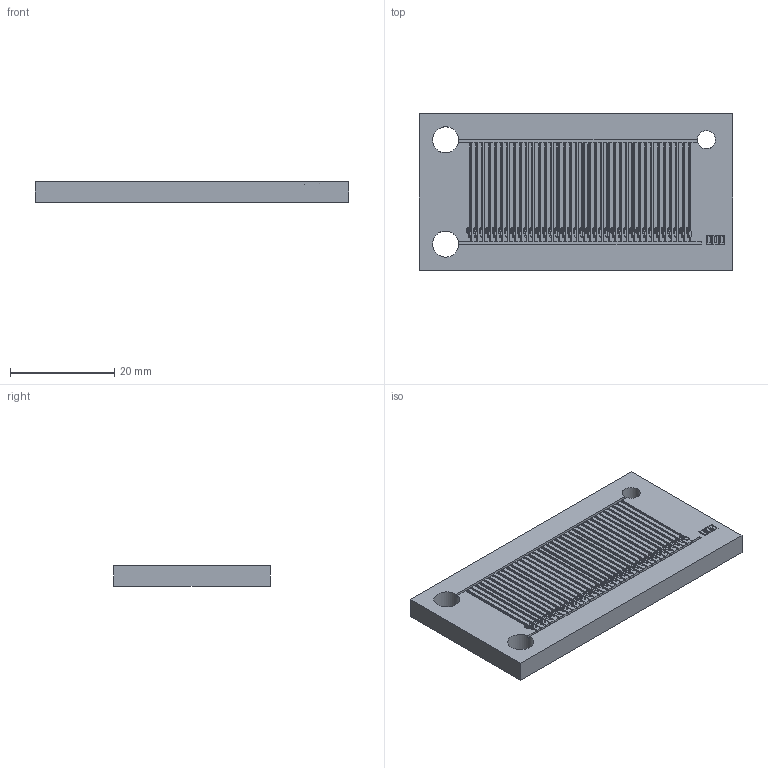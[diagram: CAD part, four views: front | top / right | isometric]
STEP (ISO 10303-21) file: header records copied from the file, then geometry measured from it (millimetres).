
FILE_DESCRIPTION(/* description */ (''),/* implementation_level */ '2;1');
FILE_NAME(/* name */ 'C:/Users/rcm82/Dropbox/2020/A. Post-Doc/7. Publication/A. Menges et al. LoC/2. Supplementary materials/C. CAD files/000b Chip/000b Off valve screening v74.step',/* time_stamp */ '2020-08-03T10:30:18+12:00',/* author */ (''),/* organization */ (''),/* preprocessor_version */ 'ST-DEVELOPER v18.1',/* originating_system */ 'Autodesk Translation Framework v9.3.0.1241',/* authorisation */ '');
FILE_SCHEMA (('AUTOMOTIVE_DESIGN { 1 0 10303 214 3 1 1 }'));
Length unit declared in the file: millimetre
Products named in the file (1): 000b Off valve screening
Bounding box: 60 x 30 x 4 mm (x, y, z)
Volume: 6933.2 mm3; surface area: 4921 mm2
Topology: 1 solids, 1 shells, 1247 faces, 3649 edges, 2408 vertices
Faces by surface type: plane 848, cylinder 399
Full cylindrical faces by diameter (mm): 3.5 x1, 5 x2
Entity records: 41206 total; most frequent: CARTESIAN_POINT 7305, ORIENTED_EDGE 7298, DIRECTION 6948, EDGE_CURVE 3649, LINE 2846, VECTOR 2846, VERTEX_POINT 2408, AXIS2_PLACEMENT_3D 2051
